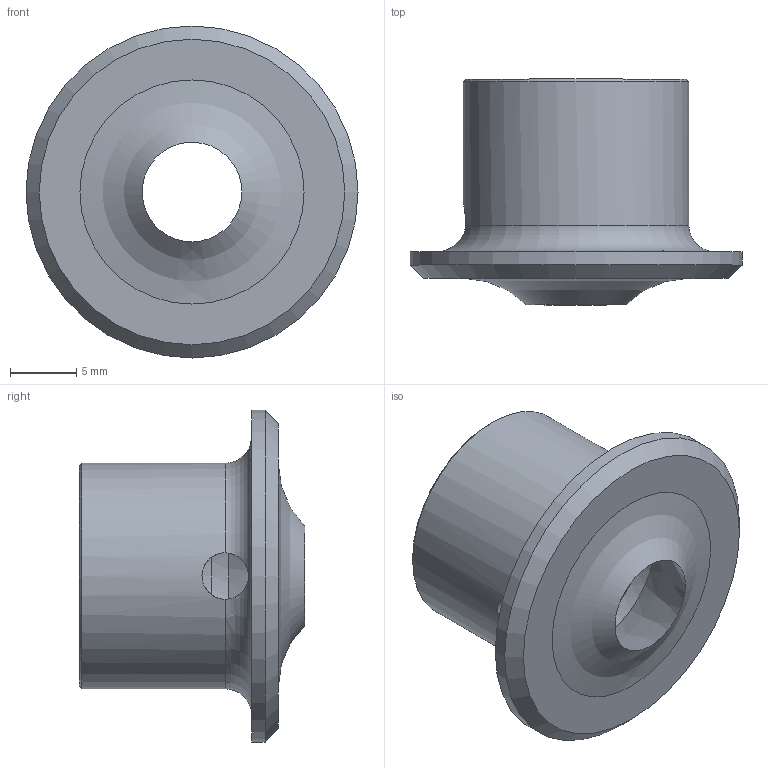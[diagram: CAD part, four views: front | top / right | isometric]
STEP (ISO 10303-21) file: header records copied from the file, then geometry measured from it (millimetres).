
FILE_DESCRIPTION( ( 'Unknown' ), '1' );
FILE_NAME( 'F:/U_Proces/Dokumentation/7000 3D Step filer/7000-/7000123/PM033.stp', 'Unknown', ( 'Unknown' ), ( 'Unknown' ), 'PSStep 13.0', 'Unknown', ' ' );
FILE_SCHEMA( ( 'AUTOMOTIVE_DESIGN { 1 0 10303 214 1 1 1 1 }' ) );
Length unit declared in the file: millimetre
Products named in the file (1): 1
Bounding box: 25 x 17 x 25 mm (x, y, z)
Volume: 2586 mm3; surface area: 2220.5 mm2
Topology: 1 solids, 1 shells, 16 faces, 39 edges, 24 vertices
Faces by surface type: cylinder 5, cone 5, plane 4, torus 2
Full cylindrical faces by diameter (mm): 3.5 x1, 10.5 x1, 17 x1, 25 x1
Entity records: 622 total; most frequent: CARTESIAN_POINT 169, DIRECTION 66, ORIENTED_EDGE 48, AXIS2_PLACEMENT_3D 32, EDGE_LOOP 29, EDGE_CURVE 24, FACE_OUTER_BOUND 22, VERTEX_POINT 19
